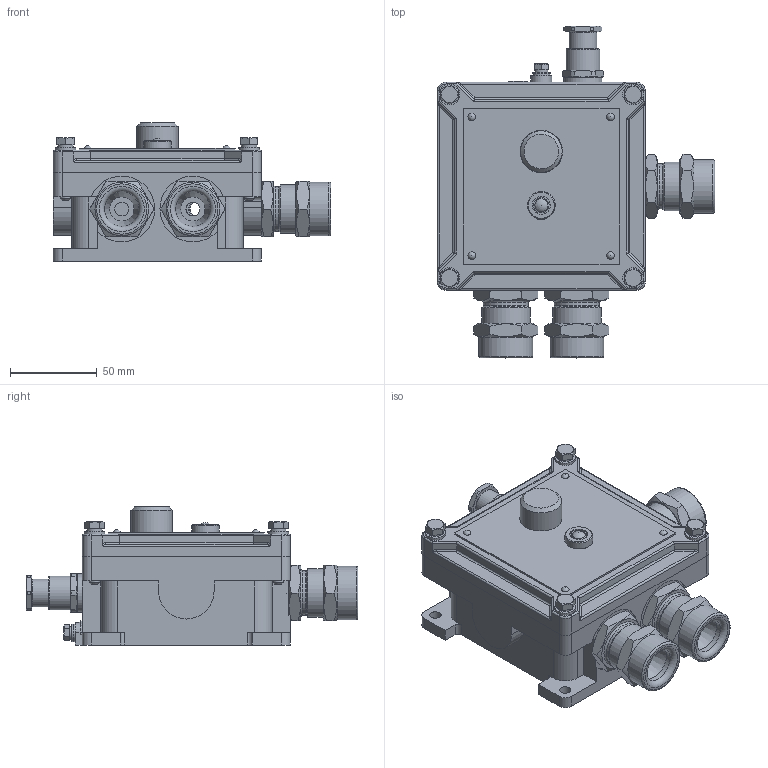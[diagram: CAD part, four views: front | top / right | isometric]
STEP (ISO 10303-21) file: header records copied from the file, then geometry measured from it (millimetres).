
FILE_DESCRIPTION(('STEP AP214'), '1');
FILE_NAME('ÓÇÀ-Ì-2Ð áåç ïëàò', '', ('UNSPECIFIED'), ('UNSPECIFIED'), 'ASCON STEP Converter 1.6', 'ASCON Math Kernel', '');
FILE_SCHEMA(('AUTOMOTIVE_DESIGN { 1 0 10303 214 3 1 1}'));
Length unit declared in the file: millimetre
Products named in the file (37): СЕНС.426469.088СБ; СЕНС.741124.987; СЕНС.731142.984; СЕНС.713321.009; СЕНС.713121.024; СЕНС.711212.007; СЕНС.303659.023СБ; СЕНС.715322.024; СЕНС.715141.106; СЕНС.754177.025; СЕНС.711463.007; СЕНС.713121.049
Assembly tree (51 placements, depth 4):
  СЕНС.426469.088СБ
    СЕНС.741124.987
    СЕНС.731142.984
    (unnamed)
    (unnamed)
    СЕНС.713321.009
    СЕНС.713121.024
    СЕНС.711212.007
    СЕНС.303659.023СБ
      СЕНС.715322.024
      СЕНС.715141.106
      (unnamed)
      (unnamed)
      СЕНС.754177.025
      СЕНС.711463.007
    (unnamed)
    СЕНС.713121.049
    (unnamed)
    (unnamed)
      (unnamed)
      (unnamed)
      (unnamed)
      (unnamed)
    (unnamed)  x3
      (unnamed)
      (unnamed)
      (unnamed)
      (unnamed)
      (unnamed)
        (unnamed)
    (unnamed)  x4
    (unnamed)  x4
    (unnamed)  x4
    (unnamed)  x4
    (unnamed)  x2
    (unnamed)
    (unnamed)
Bounding box: 160 x 191.5 x 79.64 mm (x, y, z)
Volume: 581344.3 mm3; surface area: 198920.3 mm2
Topology: 55 solids, 55 shells, 878 faces, 1944 edges, 1215 vertices
Faces by surface type: plane 362, cylinder 288, cone 133, torus 72, sphere 15, bspline 8
Full cylindrical faces by diameter (mm): 2.2 x1, 2.387 x2, 2.459 x1, 2.5 x6, 3 x1, 3.141 x2, 3.2 x1, 3.5 x1, 3.8 x1, 4.019 x1, 4.4 x4, 4.773 x4, 5 x4, 5.3 x2, 5.5 x1, 6 x5, 6.2 x1, 6.4 x1, 6.5 x8, 6.6 x4, 6.647 x1, 7.5 x1, 8 x5, 8.5 x1, 9 x2, 9.5 x1, 10 x3, 10.4 x2, 10.5 x1, 10.8 x1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
Entity records: 25158 total; most frequent: CARTESIAN_POINT 6911, DIRECTION 3056, ORIENTED_EDGE 2540, EDGE_CURVE 1270, AXIS2_PLACEMENT_3D 1261, EDGE_LOOP 988, VERTEX_POINT 926, ADVANCED_FACE 657
